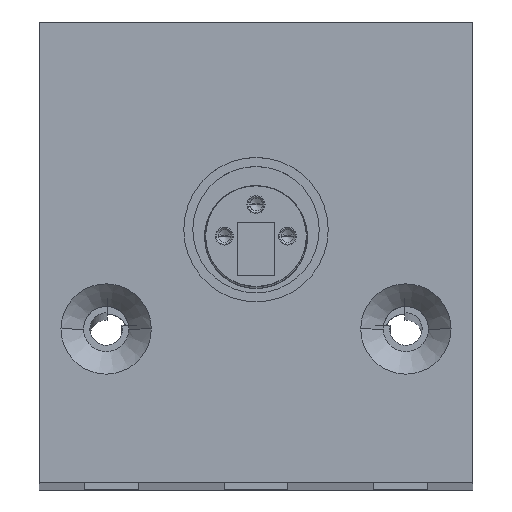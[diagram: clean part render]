
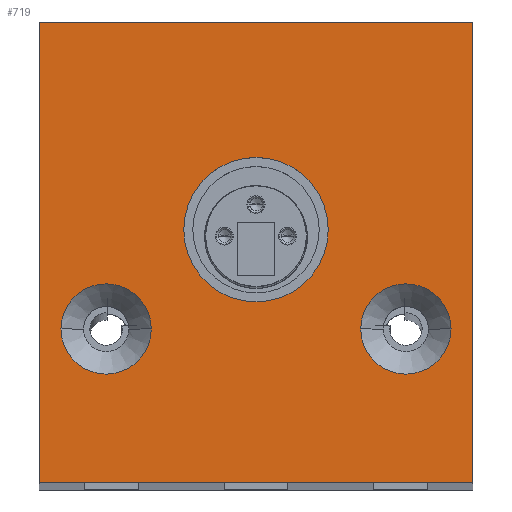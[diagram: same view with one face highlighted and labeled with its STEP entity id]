
A CAD part, top view. The second image highlights one B-rep face of the part: STEP entity #719.
In plain terms, the highlighted planar face has unit normal (0, 0, 1).
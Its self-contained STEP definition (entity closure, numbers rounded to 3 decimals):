
#719=ADVANCED_FACE('',(#1590,#1591,#1592,#1593),#1594,.T.);
#1590=FACE_BOUND('',#2644,.T.);
#1591=FACE_BOUND('',#2645,.T.);
#1592=FACE_BOUND('',#2646,.T.);
#1593=FACE_OUTER_BOUND('',#2647,.T.);
#1594=PLANE('',#2648);
#2644=EDGE_LOOP('',(#4789,#4790));
#2645=EDGE_LOOP('',(#4791,#4792));
#2646=EDGE_LOOP('',(#4793,#4794));
#2647=EDGE_LOOP('',(#4795,#4796,#4797,#4798));
#2648=AXIS2_PLACEMENT_3D('',#4799,#4800,#4801);
#4789=ORIENTED_EDGE('',*,*,#6927,.T.);
#4790=ORIENTED_EDGE('',*,*,#6608,.T.);
#4791=ORIENTED_EDGE('',*,*,#6162,.T.);
#4792=ORIENTED_EDGE('',*,*,#6995,.T.);
#4793=ORIENTED_EDGE('',*,*,#6273,.T.);
#4794=ORIENTED_EDGE('',*,*,#6996,.T.);
#4795=ORIENTED_EDGE('',*,*,#6997,.T.);
#4796=ORIENTED_EDGE('',*,*,#6975,.T.);
#4797=ORIENTED_EDGE('',*,*,#6546,.T.);
#4798=ORIENTED_EDGE('',*,*,#6844,.T.);
#4799=CARTESIAN_POINT('',(0.,0.,120.0));
#4800=DIRECTION('',(0.,0.,1.0));
#4801=DIRECTION('',(1.0,0.,0.));
#6162=EDGE_CURVE('',#7368,#7373,#7375,.T.);
#6273=EDGE_CURVE('',#7567,#7572,#7574,.T.);
#6546=EDGE_CURVE('',#8027,#8031,#8033,.T.);
#6608=EDGE_CURVE('',#8131,#8129,#8132,.T.);
#6844=EDGE_CURVE('',#8031,#8484,#8486,.T.);
#6927=EDGE_CURVE('',#8129,#8131,#8594,.T.);
#6975=EDGE_CURVE('',#8655,#8027,#8657,.T.);
#6995=EDGE_CURVE('',#7373,#7368,#8681,.T.);
#6996=EDGE_CURVE('',#7572,#7567,#8682,.T.);
#6997=EDGE_CURVE('',#8484,#8655,#8683,.T.);
#7368=VERTEX_POINT('',#9171);
#7373=VERTEX_POINT('',#9177);
#7375=CIRCLE('',#9180,2.5);
#7567=VERTEX_POINT('',#9756);
#7572=VERTEX_POINT('',#9762);
#7574=CIRCLE('',#9765,2.5);
#8027=VERTEX_POINT('',#10963);
#8031=VERTEX_POINT('',#10969);
#8033=LINE('',#10972,#10973);
#8129=VERTEX_POINT('',#11098);
#8131=VERTEX_POINT('',#11101);
#8132=CIRCLE('',#11102,4.0);
#8484=VERTEX_POINT('',#11982);
#8486=LINE('',#11985,#11986);
#8594=CIRCLE('',#12185,4.0);
#8655=VERTEX_POINT('',#12338);
#8657=LINE('',#12341,#12342);
#8681=CIRCLE('',#12371,2.5);
#8682=CIRCLE('',#12372,2.5);
#8683=LINE('',#12373,#12374);
#9171=CARTESIAN_POINT('',(-5.8,-4.25,120.0));
#9177=CARTESIAN_POINT('',(-10.8,-4.25,120.0));
#9180=AXIS2_PLACEMENT_3D('',#13192,#13193,#13194);
#9756=CARTESIAN_POINT('',(10.8,-4.25,120.0));
#9762=CARTESIAN_POINT('',(5.8,-4.25,120.0));
#9765=AXIS2_PLACEMENT_3D('',#13292,#13293,#13294);
#10963=CARTESIAN_POINT('',(-12.0,12.75,120.0));
#10969=CARTESIAN_POINT('',(-12.0,-12.75,120.0));
#10972=CARTESIAN_POINT('',(-12.0,0.,120.0));
#10973=VECTOR('',#13599,1.);
#11098=CARTESIAN_POINT('',(-4.,1.25,120.0));
#11101=CARTESIAN_POINT('',(4.,1.25,120.0));
#11102=AXIS2_PLACEMENT_3D('',#13687,#13688,#13689);
#11982=CARTESIAN_POINT('',(12.0,-12.75,120.0));
#11985=CARTESIAN_POINT('',(0.,-12.75,120.0));
#11986=VECTOR('',#13923,1.);
#12185=AXIS2_PLACEMENT_3D('',#13997,#13998,#13999);
#12338=CARTESIAN_POINT('',(12.0,12.75,120.0));
#12341=CARTESIAN_POINT('',(0.,12.75,120.0));
#12342=VECTOR('',#14046,1.);
#12371=AXIS2_PLACEMENT_3D('',#14076,#14077,#14078);
#12372=AXIS2_PLACEMENT_3D('',#14079,#14080,#14081);
#12373=CARTESIAN_POINT('',(12.0,0.,120.0));
#12374=VECTOR('',#14082,1.);
#13192=CARTESIAN_POINT('',(-8.3,-4.25,120.0));
#13193=DIRECTION('',(0.,0.,-1.0));
#13194=DIRECTION('',(1.0,0.,0.));
#13292=CARTESIAN_POINT('',(8.3,-4.25,120.0));
#13293=DIRECTION('',(0.,0.,-1.0));
#13294=DIRECTION('',(1.0,0.,0.));
#13599=DIRECTION('',(0.,-1.0,0.));
#13687=CARTESIAN_POINT('',(0.,1.25,120.0));
#13688=DIRECTION('',(0.,0.,-1.0));
#13689=DIRECTION('',(-1.0,0.,0.));
#13923=DIRECTION('',(1.0,0.,0.));
#13997=CARTESIAN_POINT('',(0.,1.25,120.0));
#13998=DIRECTION('',(0.,0.,-1.0));
#13999=DIRECTION('',(-1.0,0.,0.));
#14046=DIRECTION('',(-1.0,0.,0.));
#14076=CARTESIAN_POINT('',(-8.3,-4.25,120.0));
#14077=DIRECTION('',(0.,0.,-1.0));
#14078=DIRECTION('',(1.0,0.,0.));
#14079=CARTESIAN_POINT('',(8.3,-4.25,120.0));
#14080=DIRECTION('',(0.,0.,-1.0));
#14081=DIRECTION('',(1.0,0.,0.));
#14082=DIRECTION('',(0.,1.0,0.));
